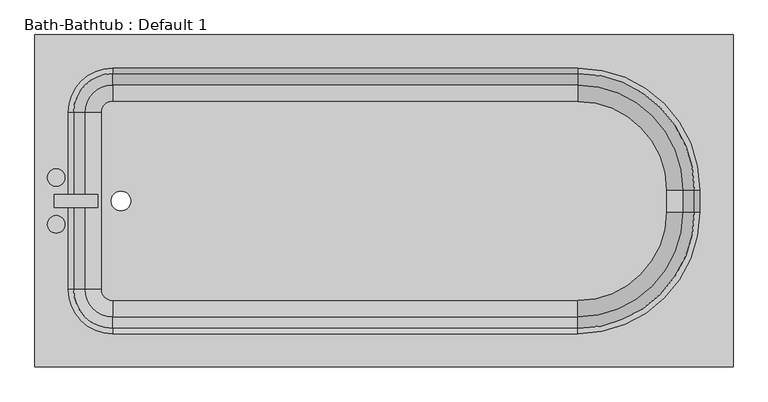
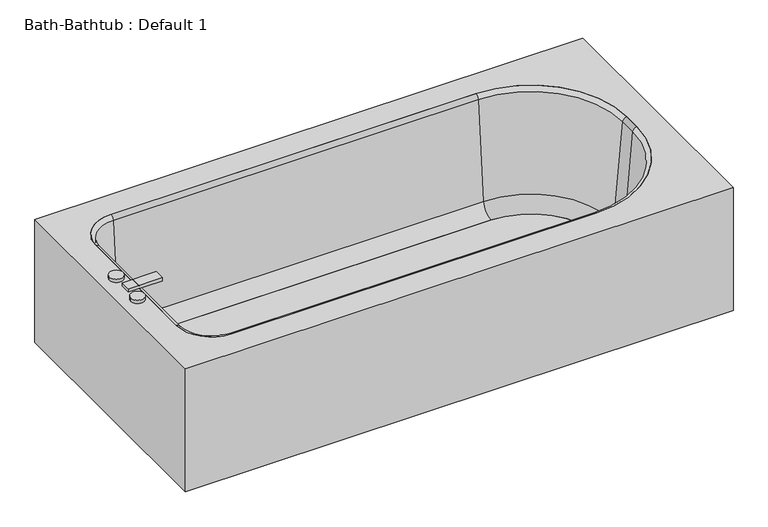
"""IFC4 building model written with IfcOpenShell, lengths in millimetres: flow terminal geometry, Bath-Bathtub : Default 1."""

import ifcopenshell
import ifcopenshell.guid

model = None  # the IFC model being written
_history = None  # IfcOwnerHistory: only IFC2X3 demands one
_inside = {}  # id of a spatial element -> (the spatial element, [elements in it])
_under = {}  # id of a project, library or spatial element -> (it, [spatial elements below it])
_declared = {}  # id of a project -> (the project, [libraries it declares])
_typed = {}  # id of a type object -> (the type object, [elements of that type])
_made_of = {}  # id of a material, layer set ... -> (it, [elements and type objects made of it])


def new_model(schema):
    """Start an empty IFC model of exactly this schema.

    Asked for "IFC4X3", IfcOpenShell would pick the latest addendum, in which some entities
    have other attributes; the version numbers below select the first issue.
    IFC2X3 requires an IfcOwnerHistory on every rooted entity: one is made here for all.
    """
    global model, _history
    if schema == "IFC4X3":
        model = ifcopenshell.file(schema_version=(4, 3, 0, 0))
    else:
        model = ifcopenshell.file(schema=schema)
    _inside.clear()
    _under.clear()
    _declared.clear()
    _typed.clear()
    _made_of.clear()
    _history = None
    if model.schema == "IFC2X3":
        org = make("IfcOrganization", Name="unknown")
        user = make(
            "IfcPersonAndOrganization",
            ThePerson=make("IfcPerson", FamilyName="unknown"),
            TheOrganization=org,
        )
        app = make(
            "IfcApplication",
            ApplicationDeveloper=org,
            Version="unknown",
            ApplicationFullName="unknown",
            ApplicationIdentifier="unknown",
        )
        _history = make(
            "IfcOwnerHistory",
            OwningUser=user,
            OwningApplication=app,
            ChangeAction="ADDED",
            CreationDate=0,
        )
    return model


def make(cls, **values):
    """One entity of the class cls with the attributes given. An attribute that is None is left unset."""
    return model.create_entity(
        cls, **{name: value for name, value in values.items() if value is not None}
    )


def rooted(cls, **values):
    """An entity with a GlobalId (a new one), such as an element, a storey or a relation."""
    return make(cls, GlobalId=ifcopenshell.guid.new(), OwnerHistory=_history, **values)


def si_unit(unit_type, name, prefix=None):
    """IfcSIUnit, for example si_unit("LENGTHUNIT", "METRE", prefix="MILLI")."""
    return make("IfcSIUnit", UnitType=unit_type, Prefix=prefix, Name=name)


def assignment(units):
    """IfcUnitAssignment: the units of a project."""
    return None if units is None else make("IfcUnitAssignment", Units=units)


def point(xyz):
    """IfcCartesianPoint."""
    return None if xyz is None else make("IfcCartesianPoint", Coordinates=xyz)


def direction(xyz):
    """IfcDirection."""
    return None if xyz is None else make("IfcDirection", DirectionRatios=xyz)


def frame(location, z_axis=None, x_axis=None):
    """IfcAxis2Placement3D, a coordinate frame: its origin and axes. An axis left out is left unset."""
    return make(
        "IfcAxis2Placement3D",
        Location=point(location),
        Axis=direction(z_axis),
        RefDirection=direction(x_axis),
    )


def frame_2d(location, x_axis=None):
    """IfcAxis2Placement2D, a coordinate frame in the plane: its origin and x axis."""
    return make(
        "IfcAxis2Placement2D", Location=point(location), RefDirection=direction(x_axis)
    )


def origin():
    """The frame at (0, 0, 0) with its axes left unset."""
    return frame((0.0, 0.0, 0.0))


def place(relative_to, where):
    """IfcLocalPlacement: puts the frame where relative to a parent placement (None: the world)."""
    return make(
        "IfcLocalPlacement", PlacementRelTo=relative_to, RelativePlacement=where
    )


def context(
    kind, dimensions, precision=None, world=None, true_north=None, identifier=None
):
    """IfcGeometricRepresentationContext, for example the 3D "Model" context."""
    return make(
        "IfcGeometricRepresentationContext",
        ContextIdentifier=identifier,
        ContextType=kind,
        CoordinateSpaceDimension=dimensions,
        Precision=precision,
        WorldCoordinateSystem=world,
        TrueNorth=true_north,
    )


def project(units=None, contexts=None):
    """IfcProject with its units and contexts."""
    return rooted(
        "IfcProject",
        Name="project",
        RepresentationContexts=contexts,
        UnitsInContext=assignment(units),
    )


def spatial(cls, under=None, at=None, **own):
    """A site, building, storey or space (cls), placed at a placement, below another one or the project."""
    s = rooted(cls, ObjectPlacement=at, **own)
    if under is not None:
        _under.setdefault(under.id(), (under, []))[1].append(s)
    return s


def polyline(points):
    """IfcPolyline through the points."""
    return make("IfcPolyline", Points=[point(p) for p in points])


def circle_curve(where, radius):
    """IfcCircle in the frame where."""
    return make("IfcCircle", Position=where, Radius=radius)


def ellipse_curve(where, semi_axis1, semi_axis2):
    """IfcEllipse in the frame where."""
    return make(
        "IfcEllipse", Position=where, SemiAxis1=semi_axis1, SemiAxis2=semi_axis2
    )


def trimmed(basis, trim1, trim2, sense, master):
    """IfcTrimmedCurve: the piece of a basis curve between two trims."""
    return make(
        "IfcTrimmedCurve",
        BasisCurve=basis,
        Trim1=trim1,
        Trim2=trim2,
        SenseAgreement=sense,
        MasterRepresentation=master,
    )


def segment(curve, same_sense, transition):
    """IfcCompositeCurveSegment."""
    return make(
        "IfcCompositeCurveSegment",
        Transition=transition,
        SameSense=same_sense,
        ParentCurve=curve,
    )


def composite_curve(segments, self_intersect=None):
    """IfcCompositeCurve: segments joined end to end."""
    return make("IfcCompositeCurve", Segments=segments, SelfIntersect=self_intersect)


def outline(outer, holes=None, kind="AREA"):
    """IfcArbitraryClosedProfileDef: a profile drawn as a closed curve; with holes, ...WithVoids."""
    if holes is None:
        return make("IfcArbitraryClosedProfileDef", ProfileType=kind, OuterCurve=outer)
    return make(
        "IfcArbitraryProfileDefWithVoids",
        ProfileType=kind,
        OuterCurve=outer,
        InnerCurves=holes,
    )


def extrude(swept, where, along, depth):
    """IfcExtrudedAreaSolid: the profile swept, set in the frame where, extruded along a direction by depth."""
    return make(
        "IfcExtrudedAreaSolid",
        SweptArea=swept,
        Position=where,
        ExtrudedDirection=direction(along),
        Depth=depth,
    )


def shape(context_of_items, identifier, shape_type, items):
    """IfcShapeRepresentation: the items that make up one representation, for example the "Body"."""
    return make(
        "IfcShapeRepresentation",
        ContextOfItems=context_of_items,
        RepresentationIdentifier=identifier,
        RepresentationType=shape_type,
        Items=items,
    )


def source(mapping_origin, context_of_items, identifier, shape_type, items):
    """IfcRepresentationMap: a shape defined once, which mapped items show again and again."""
    return make(
        "IfcRepresentationMap",
        MappingOrigin=mapping_origin,
        MappedRepresentation=shape(context_of_items, identifier, shape_type, items),
    )


def transform(
    local_origin,
    x_axis=None,
    y_axis=None,
    z_axis=None,
    scale=None,
    scale2=None,
    scale3=None,
    uniform=True,
):
    """IfcCartesianTransformationOperator3D, or its non-uniform kind. x_axis, y_axis, z_axis: its Axis1, 2, 3."""
    if uniform:
        return make(
            "IfcCartesianTransformationOperator3D",
            Axis1=direction(x_axis),
            Axis2=direction(y_axis),
            LocalOrigin=point(local_origin),
            Scale=scale,
            Axis3=direction(z_axis),
        )
    return make(
        "IfcCartesianTransformationOperator3DnonUniform",
        Axis1=direction(x_axis),
        Axis2=direction(y_axis),
        LocalOrigin=point(local_origin),
        Scale=scale,
        Axis3=direction(z_axis),
        Scale2=scale2,
        Scale3=scale3,
    )


def mapped(mapping_source, mapping_target):
    """IfcMappedItem: shows the shape of a source again, moved by a transform."""
    return make(
        "IfcMappedItem", MappingSource=mapping_source, MappingTarget=mapping_target
    )


def made_of(thing, what):
    """Note that an element or type object is made of a material, layer set ...; save() writes the relation."""
    if what is not None:
        _made_of.setdefault(what.id(), (what, []))[1].append(thing)
    return thing


def element(
    cls,
    number,
    at=None,
    inside=None,
    cuts=None,
    type_object=None,
    material=None,
    context=None,
    identifier="Body",
    shape_type=None,
    held_by="IfcProductDefinitionShape",
    body=None,
    shapes=None,
    **own,
):
    """One element of the class cls, such as IfcWall. Its Tag is "e" and its number.

    at: its placement. inside: the storey or other place that contains it. cuts: it is an
    opening in that element (IfcRelVoidsElement). A single representation is given by context,
    identifier, shape_type and body (its items); several are given by shapes. held_by: the class
    of the entity that holds the representations. save() writes the other relations.
    """
    e = rooted(cls, Tag="e%d" % number, ObjectPlacement=at, **own)
    if body is not None:
        shapes = [shape(context, identifier, shape_type, body)]
    if shapes is not None:
        e.Representation = make(held_by, Representations=shapes)
    if inside is not None:
        _inside.setdefault(inside.id(), (inside, []))[1].append(e)
    if cuts is not None:
        rooted(
            "IfcRelVoidsElement", RelatingBuildingElement=cuts, RelatedOpeningElement=e
        )
    if type_object is not None:
        _typed.setdefault(type_object.id(), (type_object, []))[1].append(e)
    return made_of(e, material)


def aggregate(whole, parts):
    """IfcRelAggregates: a whole, such as a stair, and the parts it consists of."""
    return rooted("IfcRelAggregates", RelatingObject=whole, RelatedObjects=parts)


def save(model, path):
    """Write the relations noted so far, then the file.

    IfcRelAggregates (storeys below a building ...), IfcRelContainedInSpatialStructure (elements
    in a storey), IfcRelDefinesByType, IfcRelAssociatesMaterial and IfcRelDeclares: one each for
    every whole, place, type object, material and project.
    """
    for whole, parts in _under.values():
        aggregate(whole, parts)
    for where, things in _inside.values():
        rooted(
            "IfcRelContainedInSpatialStructure",
            RelatedElements=things,
            RelatingStructure=where,
        )
    for kind, things in _typed.values():
        rooted("IfcRelDefinesByType", RelatedObjects=things, RelatingType=kind)
    for what, things in _made_of.values():
        rooted("IfcRelAssociatesMaterial", RelatedObjects=things, RelatingMaterial=what)
    for by, libraries in _declared.values():
        rooted("IfcRelDeclares", RelatingContext=by, RelatedDefinitions=libraries)
    model.write(path)


def plane_surface(at):
    """IfcPlane: the flat surface through the origin of the frame at, square to its z axis."""
    return make("IfcPlane", Position=at)


def cylinder_surface(at, radius):
    """IfcCylindricalSurface: all points at the distance radius from the z axis of the frame at."""
    return make("IfcCylindricalSurface", Position=at, Radius=radius)


def revolved_surface(curve, axis_point, axis_direction):
    """IfcSurfaceOfRevolution: the curve turned about the line through axis_point along axis_direction."""
    return make(
        "IfcSurfaceOfRevolution",
        SweptCurve=make("IfcArbitraryOpenProfileDef", ProfileType="CURVE", Curve=curve),
        AxisPosition=make("IfcAxis1Placement", Location=point(axis_point), Axis=direction(axis_direction)),
    )


def advanced_brep(points, edges, surfaces, faces):
    """IfcAdvancedBrep: a solid bounded by faces that lie on surfaces and meet in shared edges.

    An edge is (start, end): straight between two places in points (the first is 0);
    or (start, end, curve); or (start, end, curve, False) where it runs against its curve.
    A face is (place in surfaces, loops), or (place, loops, False) where it looks against
    its surface's normal. A loop lists edges by number (the first is 1), with a minus sign
    where the edge is run from its end to its start. The first loop is the outer one.
    """
    corners = [point(p) for p in points]
    vertices = [make("IfcVertexPoint", VertexGeometry=c) for c in corners]
    made = []
    for start, end, *more in edges:
        made.append(
            make(
                "IfcEdgeCurve",
                EdgeStart=vertices[start],
                EdgeEnd=vertices[end],
                EdgeGeometry=more[0] if more else make("IfcPolyline", Points=[corners[start], corners[end]]),
                SameSense=more[1] if len(more) > 1 else True,
            )
        )
    hull = []
    for where, loops, *sense in faces:
        bounds = []
        for j, loop in enumerate(loops):
            ring = [make("IfcOrientedEdge", EdgeElement=made[abs(k) - 1], Orientation=k > 0) for k in loop]
            bounds.append(
                make(
                    "IfcFaceOuterBound" if j == 0 else "IfcFaceBound",
                    Bound=make("IfcEdgeLoop", EdgeList=ring),
                    Orientation=True,
                )
            )
        hull.append(make("IfcAdvancedFace", Bounds=bounds, FaceSurface=surfaces[where], SameSense=sense[0] if sense else True))
    return make("IfcAdvancedBrep", Outer=make("IfcClosedShell", CfsFaces=hull))


def bath_bathtub_default_1_c0510252(model_context):
    return source(origin(), model_context, "Body", "SolidModel", [
        advanced_brep(
        [(489.2832616, -844.55, 380.0), (489.2832616, -82.55, 380.0), (-1110.6029687, -82.55, 380.0), (-1110.6029687, -844.55, 380.0), (-932.8029687, -768.35, 380.0), (-1034.4029687, -666.75, 380.0), (-1034.4029687, -260.35, 380.0), (-932.8029687, -158.75, 380.0), (133.6832616, -158.75, 380.0), (413.0832616, -438.15, 380.0), (413.0832616, -488.95, 380.0), (133.6832616, -768.35, 380.0), (470.2332616, -825.5, 360.95), (-1091.5529687, -825.5, 360.95), (-1091.5529687, -101.6, 360.95), (470.2332616, -101.6, 360.95), (-932.8029687, -768.35, 360.95), (133.6832616, -768.35, 360.95), (413.0832616, -488.95, 360.95), (413.0832616, -438.15, 360.95), (133.6832616, -158.75, 360.95), (-932.8029687, -158.75, 360.95), (-1034.4029687, -260.35, 360.95), (-1034.4029687, -666.75, 360.95), (-1110.6029687, -844.55, 0.0), (489.2832616, -844.55, 0.0), (-1110.6029687, -82.55, 0.0), (489.2832616, -82.55, 0.0), (470.2332616, -825.5, 0.0), (470.2332616, -101.6, 0.0), (-1091.5529687, -101.6, 0.0), (-1091.5529687, -825.5, 0.0)],
        [
            (0, 1),
            (1, 2),
            (2, 3),
            (3, 0),
            (4, 5, circle_curve(frame((-932.8029687, -666.75, 380.0), z_axis=(0.0, 0.0, -1.0), x_axis=(0.0, -1.0, 0.0)), 101.6)),
            (5, 6),
            (6, 7, circle_curve(frame((-932.8029687, -260.35, 380.0), z_axis=(0.0, 0.0, -1.0), x_axis=(0.0, -1.0, 0.0)), 101.6)),
            (7, 8),
            (8, 9, circle_curve(frame((133.6832616, -438.15, 380.0), z_axis=(0.0, 0.0, -1.0), x_axis=(0.0, -1.0, 0.0)), 279.4)),
            (9, 10),
            (10, 11, circle_curve(frame((133.6832616, -488.95, 380.0), z_axis=(0.0, 0.0, -1.0), x_axis=(0.0, -1.0, 0.0)), 279.4)),
            (11, 4),
            (12, 13),
            (13, 14),
            (14, 15),
            (15, 12),
            (16, 17),
            (17, 18, circle_curve(frame((133.6832616, -488.95, 360.95), z_axis=(0.0, 0.0, 1.0), x_axis=(0.0, -1.0, 0.0)), 279.4)),
            (18, 19),
            (19, 20, circle_curve(frame((133.6832616, -438.15, 360.95), z_axis=(0.0, 0.0, 1.0), x_axis=(0.0, -1.0, 0.0)), 279.4)),
            (20, 21),
            (21, 22, circle_curve(frame((-932.8029687, -260.35, 360.95), z_axis=(0.0, 0.0, 1.0), x_axis=(0.0, -1.0, 0.0)), 101.6)),
            (22, 23),
            (23, 16, circle_curve(frame((-932.8029687, -666.75, 360.95), z_axis=(0.0, 0.0, 1.0), x_axis=(0.0, -1.0, 0.0)), 101.6)),
            (3, 24),
            (24, 25),
            (25, 0),
            (2, 26),
            (26, 24),
            (1, 27),
            (27, 26),
            (25, 27),
            (11, 17),
            (16, 4),
            (10, 18),
            (9, 19),
            (8, 20),
            (7, 21),
            (6, 22),
            (5, 23),
            (28, 29),
            (29, 30),
            (30, 31),
            (31, 28),
            (28, 12),
            (15, 29),
            (14, 30),
            (13, 31),
        ],
        [
            plane_surface(frame((-1110.6029687, -844.55, 380.0), z_axis=(0.0, 0.0, 1.0), x_axis=(-1.0, 0.0, 0.0))),
            plane_surface(frame((-1110.6029687, -844.55, 360.95), z_axis=(0.0, 0.0, -1.0), x_axis=(1.0, 0.0, 0.0))),
            plane_surface(frame((489.2832616, -844.55, 380.0), z_axis=(0.0, -1.0, 0.0), x_axis=(0.0, 0.0, -1.0))),
            plane_surface(frame((-1110.6029687, -844.55, 380.0), z_axis=(-1.0, 0.0, 0.0), x_axis=(0.0, 0.0, -1.0))),
            plane_surface(frame((-1110.6029687, -82.55, 380.0), z_axis=(0.0, 1.0, 0.0), x_axis=(0.0, 0.0, -1.0))),
            plane_surface(frame((489.2832616, -82.55, 380.0), z_axis=(1.0, 0.0, 0.0), x_axis=(0.0, 0.0, -1.0))),
            plane_surface(frame((-932.8029687, -768.35, 380.0), z_axis=(0.0, 1.0, 0.0), x_axis=(0.0, 0.0, -1.0))),
            revolved_surface(polyline([(133.6832616, -768.3499999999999, 360.95), (133.6832616, -768.3499999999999, 380.0)]), (133.6832616, -488.95, 380.0), (0.0, 0.0, -1.0)),
            plane_surface(frame((413.0832616, -488.95, 380.0), z_axis=(-1.0, 0.0, 0.0), x_axis=(0.0, 0.0, -1.0))),
            revolved_surface(polyline([(133.6832616, -717.55, 360.95), (133.6832616, -717.55, 380.0)]), (133.6832616, -438.15, 380.0), (0.0, 0.0, -1.0)),
            plane_surface(frame((133.6832616, -158.75, 380.0), z_axis=(0.0, -1.0, 0.0), x_axis=(0.0, 0.0, -1.0))),
            revolved_surface(polyline([(-932.8029687, -361.95000000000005, 360.95), (-932.8029687, -361.95000000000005, 380.0)]), (-932.8029687, -260.35, 380.0), (0.0, 0.0, -1.0)),
            plane_surface(frame((-1034.4029687, -260.35, 380.0), z_axis=(1.0, 0.0, 0.0), x_axis=(0.0, 0.0, -1.0))),
            revolved_surface(polyline([(-932.8029687, -768.35, 360.95), (-932.8029687, -768.35, 380.0)]), (-932.8029687, -666.75, 380.0), (0.0, 0.0, -1.0)),
            plane_surface(frame((-1110.6029687, -844.55, 0.0), z_axis=(0.0, 0.0, -1.0), x_axis=(1.0, 0.0, 0.0))),
            plane_surface(frame((470.2332616, -825.5, 360.95), z_axis=(-1.0, 0.0, 0.0), x_axis=(0.0, 0.0, -1.0))),
            plane_surface(frame((470.2332616, -101.6, 360.95), z_axis=(0.0, -1.0, 0.0), x_axis=(0.0, 0.0, -1.0))),
            plane_surface(frame((-1091.5529687, -101.6, 360.95), z_axis=(1.0, 0.0, 0.0), x_axis=(0.0, 0.0, -1.0))),
            plane_surface(frame((-1091.5529687, -825.5, 360.95), z_axis=(0.0, 1.0, 0.0), x_axis=(0.0, 0.0, -1.0))),
        ],
        [
            (0, [[1, 2, 3, 4], [5, 6, 7, 8, 9, 10, 11, 12]]),
            (1, [[13, 14, 15, 16], [17, 18, 19, 20, 21, 22, 23, 24]]),
            (2, [[25, 26, 27, -4]]),
            (3, [[28, 29, -25, -3]]),
            (4, [[30, 31, -28, -2]]),
            (5, [[32, -30, -1, -27]]),
            (6, [[33, -17, 34, -12]]),
            (7, [[35, -18, -33, -11]]),
            (8, [[36, -19, -35, -10]]),
            (9, [[37, -20, -36, -9]]),
            (10, [[38, -21, -37, -8]]),
            (11, [[39, -22, -38, -7]]),
            (12, [[40, -23, -39, -6]]),
            (13, [[-34, -24, -40, -5]]),
            (14, [[-26, -29, -31, -32], [41, 42, 43, 44]]),
            (15, [[45, -16, 46, -41]]),
            (16, [[-46, -15, 47, -42]]),
            (17, [[-47, -14, 48, -43]]),
            (18, [[-48, -13, -45, -44]]),
        ],
    ),
        extrude(outline(composite_curve([segment(polyline([(133.6832616, -691.7464741), (-932.8029687, -691.7464741)]), True, "CONTINUOUS"), segment(trimmed(circle_curve(frame_2d((-932.8029687, -666.75)), 24.9964741), [point((-932.8029687, -691.7464741))], [point((-957.7994428, -666.75))], False, "CARTESIAN"), True, "CONTINUOUS"), segment(polyline([(-957.7994428, -666.75), (-957.7994428, -260.35)]), True, "CONTINUOUS"), segment(trimmed(circle_curve(frame_2d((-932.8029687, -260.35)), 24.9964741), [point((-957.7994428, -260.35))], [point((-932.8029687, -235.3535259))], False, "CARTESIAN"), True, "CONTINUOUS"), segment(polyline([(-932.8029687, -235.3535259), (133.6832616, -235.3535259)]), True, "CONTINUOUS"), segment(trimmed(circle_curve(frame_2d((133.6832616, -438.15)), 202.7964741), [point((133.6832616, -235.3535259))], [point((336.4797357, -438.15))], False, "CARTESIAN"), True, "CONTINUOUS"), segment(polyline([(336.4797357, -438.15), (336.4797357, -488.95)]), True, "CONTINUOUS"), segment(trimmed(circle_curve(frame_2d((133.6832616, -488.95)), 202.7964741), [point((336.4797357, -488.95))], [point((133.6832616, -691.7464741))], False, "CARTESIAN"), True, "CONTINUOUS")], self_intersect=False), holes=[composite_curve([segment(trimmed(circle_curve(frame_2d((-913.5971625, -463.55)), 22.225), [point((-913.5971625, -485.775))], [point((-913.5971625, -441.325))], True, "CARTESIAN"), True, "CONTINUOUS"), segment(trimmed(circle_curve(frame_2d((-913.5971625, -463.55)), 22.225), [point((-913.5971625, -441.325))], [point((-913.5971625, -485.775))], True, "CARTESIAN"), True, "CONTINUOUS")], self_intersect=False)]), frame((0.0, 0.0, 15.863573), z_axis=(0.0, 0.0, 1.0), x_axis=(1.0, 0.0, 0.0)), (0.0, 0.0, 1.0), 19.05),
        advanced_brep(
        [(-995.7544608, -666.75, 69.6929392), (-1021.9249722, -666.75, 368.8232535), (-932.8029687, -755.8720035, 368.8232535), (-932.8029687, -729.7014921, 69.6929392), (-957.7994428, -666.75, 34.913573), (-932.8029687, -691.7464741, 34.913573), (-957.7994428, -666.75, 15.863573), (-932.8029687, -691.7464741, 15.863573), (-1034.4029687, -666.75, 15.863573), (-932.8029687, -768.35, 15.863573), (-1034.4029687, -666.75, 380.0), (-932.8029687, -768.35, 380.0), (-995.7544608, -260.35, 69.6929392), (-1021.9249722, -260.35, 368.8232535), (-957.7994428, -260.35, 34.913573), (-957.7994428, -260.35, 15.863573), (-1034.4029687, -260.35, 15.863573), (-1034.4029687, -260.35, 380.0), (-932.8029687, -197.3985079, 69.6929392), (-932.8029687, -171.2279965, 368.8232535), (-932.8029687, -235.3535259, 34.913573), (-932.8029687, -235.3535259, 15.863573), (-932.8029687, -158.75, 15.863573), (-932.8029687, -158.75, 380.0), (133.6832616, -197.3985079, 69.6929392), (133.6832616, -171.2279965, 368.8232535), (133.6832616, -235.3535259, 34.913573), (133.6832616, -235.3535259, 15.863573), (133.6832616, -158.75, 15.863573), (133.6832616, -158.75, 380.0), (374.4347537, -438.15, 69.6929392), (400.6052651, -438.15, 368.8232535), (336.4797357, -438.15, 34.913573), (336.4797357, -438.15, 15.863573), (413.0832616, -438.15, 15.863573), (413.0832616, -438.15, 380.0), (374.4347537, -488.95, 69.6929392), (400.6052651, -488.95, 368.8232535), (336.4797357, -488.95, 34.913573), (336.4797357, -488.95, 15.863573), (413.0832616, -488.95, 15.863573), (413.0832616, -488.95, 380.0), (133.6832616, -729.7014921, 69.6929392), (133.6832616, -755.8720035, 368.8232535), (133.6832616, -691.7464741, 34.913573), (133.6832616, -691.7464741, 15.863573), (133.6832616, -768.35, 15.863573), (133.6832616, -768.35, 380.0)],
        [
            (0, 1),
            (1, 2, circle_curve(frame((-932.8029687, -666.75, 368.8232535), z_axis=(0.0, 0.0, 1.0), x_axis=(0.0, -1.0, 0.0)), 89.1220035)),
            (2, 3),
            (3, 0, circle_curve(frame((-932.8029687, -666.75, 69.6929392), z_axis=(0.0, 0.0, -1.0), x_axis=(0.0, -1.0, 0.0)), 62.9514921)),
            (4, 0, circle_curve(frame((-957.7994428, -666.75, 73.013573), z_axis=(0.0, 1.0, 0.0), x_axis=(1.0, 0.0, 0.0)), 38.1)),
            (3, 5, circle_curve(frame((-932.8029687, -691.7464741, 73.013573), z_axis=(1.0, 0.0, 0.0), x_axis=(0.0, 1.0, 0.0)), 38.1)),
            (5, 4, circle_curve(frame((-932.8029687, -666.75, 34.913573), z_axis=(0.0, 0.0, -1.0), x_axis=(0.0, -1.0, 0.0)), 24.9964741)),
            (6, 4),
            (5, 7),
            (7, 6, circle_curve(frame((-932.8029687, -666.75, 15.863573), z_axis=(0.0, 0.0, -1.0), x_axis=(0.0, -1.0, 0.0)), 24.9964741)),
            (8, 6),
            (7, 9),
            (9, 8, circle_curve(frame((-932.8029687, -666.75, 15.863573), z_axis=(0.0, 0.0, -1.0), x_axis=(0.0, -1.0, 0.0)), 101.6)),
            (10, 8),
            (9, 11),
            (11, 10, circle_curve(frame((-932.8029687, -666.75, 380.0), z_axis=(0.0, 0.0, -1.0), x_axis=(0.0, -1.0, 0.0)), 101.6)),
            (1, 10, circle_curve(frame((-1034.4029687, -666.75, 367.4462547), z_axis=(0.0, -1.0, 0.0), x_axis=(1.0, 0.0, 0.0)), 12.5537453)),
            (11, 2, circle_curve(frame((-932.8029687, -768.35, 367.4462547), z_axis=(-1.0, 0.0, 0.0), x_axis=(0.0, 1.0, 0.0)), 12.5537453)),
            (0, 12),
            (12, 13),
            (13, 1),
            (4, 14),
            (14, 12, circle_curve(frame((-957.7994428, -260.35, 73.013573), z_axis=(0.0, 1.0, 0.0), x_axis=(1.0, 0.0, 0.0)), 38.1)),
            (6, 15),
            (15, 14),
            (8, 16),
            (16, 15),
            (10, 17),
            (17, 16),
            (13, 17, circle_curve(frame((-1034.4029687, -260.35, 367.4462547), z_axis=(0.0, -1.0, 0.0), x_axis=(1.0, 0.0, 0.0)), 12.5537453)),
            (18, 19),
            (19, 13, circle_curve(frame((-932.8029687, -260.35, 368.8232535), z_axis=(0.0, 0.0, 1.0), x_axis=(-1.0, 0.0, 0.0)), 89.1220035)),
            (12, 18, circle_curve(frame((-932.8029687, -260.35, 69.6929392), z_axis=(0.0, 0.0, -1.0), x_axis=(-1.0, 0.0, 0.0)), 62.9514921)),
            (20, 18, circle_curve(frame((-932.8029687, -235.3535259, 73.013573), z_axis=(1.0, 0.0, 0.0), x_axis=(0.0, -1.0, 0.0)), 38.1)),
            (14, 20, circle_curve(frame((-932.8029687, -260.35, 34.913573), z_axis=(0.0, 0.0, -1.0), x_axis=(-1.0, 0.0, 0.0)), 24.9964741)),
            (21, 20),
            (15, 21, circle_curve(frame((-932.8029687, -260.35, 15.863573), z_axis=(0.0, 0.0, -1.0), x_axis=(-1.0, 0.0, 0.0)), 24.9964741)),
            (22, 21),
            (16, 22, circle_curve(frame((-932.8029687, -260.35, 15.863573), z_axis=(0.0, 0.0, -1.0), x_axis=(-1.0, 0.0, 0.0)), 101.6)),
            (23, 22),
            (17, 23, circle_curve(frame((-932.8029687, -260.35, 380.0), z_axis=(0.0, 0.0, -1.0), x_axis=(-1.0, 0.0, 0.0)), 101.6)),
            (19, 23, circle_curve(frame((-932.8029687, -158.75, 367.4462547), z_axis=(-1.0, 0.0, 0.0), x_axis=(0.0, -1.0, 0.0)), 12.5537453)),
            (18, 24),
            (24, 25),
            (25, 19),
            (20, 26),
            (26, 24, circle_curve(frame((133.6832616, -235.3535259, 73.013573), z_axis=(1.0, 0.0, 0.0), x_axis=(0.0, -1.0, 0.0)), 38.1)),
            (21, 27),
            (27, 26),
            (22, 28),
            (28, 27),
            (23, 29),
            (29, 28),
            (25, 29, circle_curve(frame((133.6832616, -158.75, 367.4462547), z_axis=(-1.0, 0.0, 0.0), x_axis=(0.0, -1.0, 0.0)), 12.5537453)),
            (30, 31),
            (31, 25, circle_curve(frame((133.6832616, -438.15, 368.8232535), z_axis=(0.0, 0.0, 1.0), x_axis=(0.0, 1.0, 0.0)), 266.9220035)),
            (24, 30, circle_curve(frame((133.6832616, -438.15, 69.6929392), z_axis=(0.0, 0.0, -1.0), x_axis=(0.0, 1.0, 0.0)), 240.7514921)),
            (32, 30, circle_curve(frame((336.4797357, -438.15, 73.013573), z_axis=(0.0, -1.0, 0.0), x_axis=(-1.0, 0.0, 0.0)), 38.1)),
            (26, 32, circle_curve(frame((133.6832616, -438.15, 34.913573), z_axis=(0.0, 0.0, -1.0), x_axis=(0.0, 1.0, 0.0)), 202.7964741)),
            (33, 32),
            (27, 33, circle_curve(frame((133.6832616, -438.15, 15.863573), z_axis=(0.0, 0.0, -1.0), x_axis=(0.0, 1.0, 0.0)), 202.7964741)),
            (34, 33),
            (28, 34, circle_curve(frame((133.6832616, -438.15, 15.863573), z_axis=(0.0, 0.0, -1.0), x_axis=(0.0, 1.0, 0.0)), 279.4)),
            (35, 34),
            (29, 35, circle_curve(frame((133.6832616, -438.15, 380.0), z_axis=(0.0, 0.0, -1.0), x_axis=(0.0, 1.0, 0.0)), 279.4)),
            (31, 35, circle_curve(frame((413.0832616, -438.15, 367.4462547), z_axis=(0.0, 1.0, 0.0), x_axis=(-1.0, 0.0, 0.0)), 12.5537453)),
            (30, 36),
            (36, 37),
            (37, 31),
            (32, 38),
            (38, 36, circle_curve(frame((336.4797357, -488.95, 73.013573), z_axis=(0.0, -1.0, 0.0), x_axis=(-1.0, 0.0, 0.0)), 38.1)),
            (33, 39),
            (39, 38),
            (34, 40),
            (40, 39),
            (35, 41),
            (41, 40),
            (37, 41, circle_curve(frame((413.0832616, -488.95, 367.4462547), z_axis=(0.0, 1.0, 0.0), x_axis=(-1.0, 0.0, 0.0)), 12.5537453)),
            (42, 43),
            (43, 37, circle_curve(frame((133.6832616, -488.95, 368.8232535), z_axis=(0.0, 0.0, 1.0), x_axis=(1.0, 0.0, 0.0)), 266.9220035)),
            (36, 42, circle_curve(frame((133.6832616, -488.95, 69.6929392), z_axis=(0.0, 0.0, -1.0), x_axis=(1.0, 0.0, 0.0)), 240.7514921)),
            (44, 42, circle_curve(frame((133.6832616, -691.7464741, 73.013573), z_axis=(-1.0, 0.0, 0.0), x_axis=(0.0, 1.0, 0.0)), 38.1)),
            (38, 44, circle_curve(frame((133.6832616, -488.95, 34.913573), z_axis=(0.0, 0.0, -1.0), x_axis=(1.0, 0.0, 0.0)), 202.7964741)),
            (45, 44),
            (39, 45, circle_curve(frame((133.6832616, -488.95, 15.863573), z_axis=(0.0, 0.0, -1.0), x_axis=(1.0, 0.0, 0.0)), 202.7964741)),
            (46, 45),
            (40, 46, circle_curve(frame((133.6832616, -488.95, 15.863573), z_axis=(0.0, 0.0, -1.0), x_axis=(1.0, 0.0, 0.0)), 279.4)),
            (47, 46),
            (41, 47, circle_curve(frame((133.6832616, -488.95, 380.0), z_axis=(0.0, 0.0, -1.0), x_axis=(1.0, 0.0, 0.0)), 279.4)),
            (43, 47, circle_curve(frame((133.6832616, -768.35, 367.4462547), z_axis=(1.0, 0.0, 0.0), x_axis=(0.0, 1.0, 0.0)), 12.5537453)),
            (42, 3),
            (2, 43),
            (44, 5),
            (45, 7),
            (46, 9),
            (47, 11),
        ],
        [
            revolved_surface(polyline([(-932.8029687, -755.8720035, 368.8232535), (-932.8029687, -729.7014921, 69.6929392)]), (-932.8029687, -666.75, 380.0), (0.0, 0.0, 1.0)),
            revolved_surface(trimmed(ellipse_curve(frame((-932.8029687, -691.7464741, 73.013573), z_axis=(1.0, 0.0, 0.0), x_axis=(0.0, 1.0, 0.0)), 38.1, 38.1), [point((-932.8029687, -729.7014921, 69.6929392))], [point((-932.8029687, -691.7464741, 34.913573))], True, "CARTESIAN"), (-932.8029687, -666.75, 380.0), (0.0, 0.0, 1.0)),
            revolved_surface(polyline([(-932.8029687, -691.7464741, 34.913572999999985), (-932.8029687, -691.7464741, 15.863572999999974)]), (-932.8029687, -666.75, 380.0), (0.0, 0.0, 1.0)),
            plane_surface(frame((-932.8029687, -666.75, 15.863573), z_axis=(0.0, 0.0, -1.0), x_axis=(0.0, -1.0, 0.0))),
            cylinder_surface(frame((-932.8029687, -666.75, 380.0), z_axis=(0.0, 0.0, 1.0), x_axis=(0.0, -1.0, 0.0)), 101.6),
            revolved_surface(trimmed(ellipse_curve(frame((-932.8029687, -768.35, 367.4462547), z_axis=(-1.0, 0.0, 0.0), x_axis=(0.0, 1.0, 0.0)), 12.5537453, 12.5537453), [point((-932.8029687, -768.35, 380.0))], [point((-932.8029687, -755.8720035, 368.8232535))], True, "CARTESIAN"), (-932.8029687, -666.75, 380.0), (0.0, 0.0, 1.0)),
            plane_surface(frame((-1021.9249722, -666.75, 368.8232535), z_axis=(0.9961946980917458, 0.0, 0.08715574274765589), x_axis=(0.0, 1.0, 0.0))),
            revolved_surface(polyline([(-919.6994427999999, -260.35, 73.013573), (-919.6994427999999, -666.75, 73.013573)]), (-957.7994428, -666.75, 73.013573), (0.0, 1.0, 0.0)),
            plane_surface(frame((-957.7994428, -666.75, 34.913573), z_axis=(1.0, 0.0, 0.0), x_axis=(0.0, 1.0, 0.0))),
            plane_surface(frame((-957.7994428, -666.75, 15.863573), z_axis=(0.0, 0.0, -1.0), x_axis=(0.0, 1.0, 0.0))),
            plane_surface(frame((-1034.4029687, -666.75, 15.863573), z_axis=(-1.0, 0.0, 0.0), x_axis=(0.0, 1.0, 0.0))),
            cylinder_surface(frame((-1034.4029687, -666.75, 367.4462547), z_axis=(0.0, -1.0, 0.0), x_axis=(1.0, 0.0, 0.0)), 12.5537453),
            revolved_surface(polyline([(-1021.9249722, -260.35, 368.8232535), (-995.7544608, -260.35, 69.6929392)]), (-932.8029687, -260.35, 380.0), (0.0, 0.0, 1.0)),
            revolved_surface(trimmed(ellipse_curve(frame((-957.7994428, -260.35, 73.013573), z_axis=(0.0, -1.0, 0.0), x_axis=(1.0, 0.0, 0.0)), 38.1, 38.1), [point((-995.7544608, -260.35, 69.6929392))], [point((-957.7994428, -260.35, 34.913573))], True, "CARTESIAN"), (-932.8029687, -260.35, 380.0), (0.0, 0.0, 1.0)),
            revolved_surface(polyline([(-957.7994428, -260.35, 34.913572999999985), (-957.7994428, -260.35, 15.863572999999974)]), (-932.8029687, -260.35, 380.0), (0.0, 0.0, 1.0)),
            plane_surface(frame((-932.8029687, -260.35, 15.863573), z_axis=(0.0, 0.0, -1.0), x_axis=(-1.0, 0.0, 0.0))),
            cylinder_surface(frame((-932.8029687, -260.35, 380.0), z_axis=(0.0, 0.0, 1.0), x_axis=(-1.0, 0.0, 0.0)), 101.6),
            revolved_surface(trimmed(ellipse_curve(frame((-1034.4029687, -260.35, 367.4462547), z_axis=(0.0, 1.0, 0.0), x_axis=(1.0, 0.0, 0.0)), 12.5537453, 12.5537453), [point((-1034.4029687, -260.35, 380.0))], [point((-1021.9249722, -260.35, 368.8232535))], True, "CARTESIAN"), (-932.8029687, -260.35, 380.0), (0.0, 0.0, 1.0)),
            plane_surface(frame((-932.8029687, -171.2279965, 368.8232535), z_axis=(0.0, -0.9961946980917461, 0.08715574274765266), x_axis=(1.0, 0.0, 0.0))),
            revolved_surface(polyline([(133.68326160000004, -273.4535259, 73.013573), (-932.8029687, -273.4535259, 73.013573)]), (-932.8029687, -235.3535259, 73.013573), (1.0, 0.0, 0.0)),
            plane_surface(frame((-932.8029687, -235.3535259, 34.913573), z_axis=(0.0, -1.0, 0.0), x_axis=(1.0, 0.0, 0.0))),
            plane_surface(frame((-932.8029687, -235.3535259, 15.863573), z_axis=(0.0, 0.0, -1.0), x_axis=(1.0, 0.0, 0.0))),
            plane_surface(frame((-932.8029687, -158.75, 15.863573), z_axis=(0.0, 1.0, 0.0), x_axis=(1.0, 0.0, 0.0))),
            cylinder_surface(frame((-932.8029687, -158.75, 367.4462547), z_axis=(-1.0, 0.0, 0.0), x_axis=(0.0, -1.0, 0.0)), 12.5537453),
            revolved_surface(polyline([(133.6832616, -171.2279965, 368.8232535), (133.6832616, -197.3985079, 69.6929392)]), (133.6832616, -438.15, 380.0), (0.0, 0.0, 1.0)),
            revolved_surface(trimmed(ellipse_curve(frame((133.6832616, -235.3535259, 73.013573), z_axis=(-1.0, 0.0, 0.0), x_axis=(0.0, -1.0, 0.0)), 38.1, 38.1), [point((133.6832616, -197.3985079, 69.6929392))], [point((133.6832616, -235.3535259, 34.913573))], True, "CARTESIAN"), (133.6832616, -438.15, 380.0), (0.0, 0.0, 1.0)),
            revolved_surface(polyline([(133.6832616, -235.35352589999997, 34.913572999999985), (133.6832616, -235.35352589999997, 15.863572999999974)]), (133.6832616, -438.15, 380.0), (0.0, 0.0, 1.0)),
            plane_surface(frame((133.6832616, -438.15, 15.863573), z_axis=(0.0, 0.0, -1.0), x_axis=(0.0, 1.0, 0.0))),
            cylinder_surface(frame((133.6832616, -438.15, 380.0), z_axis=(0.0, 0.0, 1.0), x_axis=(0.0, 1.0, 0.0)), 279.4),
            revolved_surface(trimmed(ellipse_curve(frame((133.6832616, -158.75, 367.4462547), z_axis=(1.0, 0.0, 0.0), x_axis=(0.0, -1.0, 0.0)), 12.5537453, 12.5537453), [point((133.6832616, -158.75, 380.0))], [point((133.6832616, -171.2279965, 368.8232535))], True, "CARTESIAN"), (133.6832616, -438.15, 380.0), (0.0, 0.0, 1.0)),
            plane_surface(frame((400.6052651, -438.15, 368.8232535), z_axis=(-0.9961946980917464, 0.0, 0.08715574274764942), x_axis=(0.0, -1.0, 0.0))),
            revolved_surface(polyline([(298.37973569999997, -488.95, 73.013573), (298.37973569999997, -438.15, 73.013573)]), (336.4797357, -438.15, 73.013573), (0.0, -1.0, 0.0)),
            plane_surface(frame((336.4797357, -438.15, 34.913573), z_axis=(-1.0, 0.0, 0.0), x_axis=(0.0, -1.0, 0.0))),
            plane_surface(frame((336.4797357, -438.15, 15.863573), z_axis=(0.0, 0.0, -1.0), x_axis=(0.0, -1.0, 0.0))),
            plane_surface(frame((413.0832616, -438.15, 15.863573), z_axis=(1.0, 0.0, 0.0), x_axis=(0.0, -1.0, 0.0))),
            cylinder_surface(frame((413.0832616, -438.15, 367.4462547), z_axis=(0.0, 1.0, 0.0), x_axis=(-1.0, 0.0, 0.0)), 12.5537453),
            revolved_surface(polyline([(400.6052651, -488.95, 368.8232535), (374.4347537, -488.95, 69.6929392)]), (133.6832616, -488.95, 380.0), (0.0, 0.0, 1.0)),
            revolved_surface(trimmed(ellipse_curve(frame((336.4797357, -488.95, 73.013573), z_axis=(0.0, 1.0, 0.0), x_axis=(-1.0, 0.0, 0.0)), 38.1, 38.1), [point((374.4347537, -488.95, 69.6929392))], [point((336.4797357, -488.95, 34.913573))], True, "CARTESIAN"), (133.6832616, -488.95, 380.0), (0.0, 0.0, 1.0)),
            revolved_surface(polyline([(336.4797357, -488.95, 34.913572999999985), (336.4797357, -488.95, 15.863572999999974)]), (133.6832616, -488.95, 380.0), (0.0, 0.0, 1.0)),
            plane_surface(frame((133.6832616, -488.95, 15.863573), z_axis=(0.0, 0.0, -1.0), x_axis=(1.0, 0.0, 0.0))),
            cylinder_surface(frame((133.6832616, -488.95, 380.0), z_axis=(0.0, 0.0, 1.0), x_axis=(1.0, 0.0, 0.0)), 279.4),
            revolved_surface(trimmed(ellipse_curve(frame((413.0832616, -488.95, 367.4462547), z_axis=(0.0, -1.0, 0.0), x_axis=(-1.0, 0.0, 0.0)), 12.5537453, 12.5537453), [point((413.0832616, -488.95, 380.0))], [point((400.6052651, -488.95, 368.8232535))], True, "CARTESIAN"), (133.6832616, -488.95, 380.0), (0.0, 0.0, 1.0)),
            plane_surface(frame((133.6832616, -755.8720035, 368.8232535), z_axis=(0.0, 0.9961946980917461, 0.08715574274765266), x_axis=(-1.0, 0.0, 0.0))),
            revolved_surface(polyline([(-932.8029687, -653.6464741, 73.013573), (133.6832616, -653.6464741, 73.013573)]), (133.6832616, -691.7464741, 73.013573), (-1.0, 0.0, 0.0)),
            plane_surface(frame((133.6832616, -691.7464741, 34.913573), z_axis=(0.0, 1.0, 0.0), x_axis=(-1.0, 0.0, 0.0))),
            plane_surface(frame((133.6832616, -691.7464741, 15.863573), z_axis=(0.0, 0.0, -1.0), x_axis=(-1.0, 0.0, 0.0))),
            plane_surface(frame((133.6832616, -768.35, 15.863573), z_axis=(0.0, -1.0, 0.0), x_axis=(-1.0, 0.0, 0.0))),
            cylinder_surface(frame((133.6832616, -768.35, 367.4462547), z_axis=(1.0, 0.0, 0.0), x_axis=(0.0, 1.0, 0.0)), 12.5537453),
        ],
        [
            (0, [[1, 2, 3, 4]]),
            (1, [[5, -4, 6, 7]]),
            (2, [[8, -7, 9, 10]]),
            (3, [[11, -10, 12, 13]]),
            (4, [[14, -13, 15, 16]]),
            (5, [[17, -16, 18, -2]]),
            (6, [[19, 20, 21, -1]]),
            (7, [[22, 23, -19, -5]]),
            (8, [[24, 25, -22, -8]]),
            (9, [[26, 27, -24, -11]]),
            (10, [[28, 29, -26, -14]]),
            (11, [[-21, 30, -28, -17]]),
            (12, [[31, 32, -20, 33]]),
            (13, [[34, -33, -23, 35]]),
            (14, [[36, -35, -25, 37]]),
            (15, [[38, -37, -27, 39]]),
            (16, [[40, -39, -29, 41]]),
            (17, [[42, -41, -30, -32]]),
            (18, [[43, 44, 45, -31]]),
            (19, [[46, 47, -43, -34]]),
            (20, [[48, 49, -46, -36]]),
            (21, [[50, 51, -48, -38]]),
            (22, [[52, 53, -50, -40]]),
            (23, [[-45, 54, -52, -42]]),
            (24, [[55, 56, -44, 57]]),
            (25, [[58, -57, -47, 59]]),
            (26, [[60, -59, -49, 61]]),
            (27, [[62, -61, -51, 63]]),
            (28, [[64, -63, -53, 65]]),
            (29, [[66, -65, -54, -56]]),
            (30, [[67, 68, 69, -55]]),
            (31, [[70, 71, -67, -58]]),
            (32, [[72, 73, -70, -60]]),
            (33, [[74, 75, -72, -62]]),
            (34, [[76, 77, -74, -64]]),
            (35, [[-69, 78, -76, -66]]),
            (36, [[79, 80, -68, 81]]),
            (37, [[82, -81, -71, 83]]),
            (38, [[84, -83, -73, 85]]),
            (39, [[86, -85, -75, 87]]),
            (40, [[88, -87, -77, 89]]),
            (41, [[90, -89, -78, -80]]),
            (42, [[91, -3, 92, -79]]),
            (43, [[93, -6, -91, -82]]),
            (44, [[94, -9, -93, -84]]),
            (45, [[95, -12, -94, -86]]),
            (46, [[96, -15, -95, -88]]),
            (47, [[-92, -18, -96, -90]]),
        ],
    ),
        extrude(outline(polyline([(-1066.8328759, -478.55), (-1066.8328759, -448.55), (-966.8328759, -448.55), (-966.8328759, -478.55), (-1066.8328759, -478.55)])), frame((0.0, 0.0, 380.0), z_axis=(0.0, 0.0, 1.0), x_axis=(1.0, 0.0, 0.0)), (0.0, 0.0, 1.0), 10.6738596),
        extrude(outline(composite_curve([segment(trimmed(circle_curve(frame_2d((-1061.8660369, -517.2447376)), 20.0), [point((-1041.8660369, -517.2447376))], [point((-1081.8660369, -517.2447376))], False, "CARTESIAN"), True, "CONTINUOUS"), segment(trimmed(circle_curve(frame_2d((-1061.8660369, -517.2447376)), 20.0), [point((-1081.8660369, -517.2447376))], [point((-1041.8660369, -517.2447376))], False, "CARTESIAN"), True, "CONTINUOUS")], self_intersect=False)), frame((0.0, 0.0, 380.0), z_axis=(0.0, 0.0, 1.0), x_axis=(1.0, 0.0, 0.0)), (0.0, 0.0, 1.0), 10.6738596),
        extrude(outline(composite_curve([segment(trimmed(circle_curve(frame_2d((-1061.8660369, -409.8552624)), 20.0), [point((-1041.8660369, -409.8552624))], [point((-1081.8660369, -409.8552624))], False, "CARTESIAN"), True, "CONTINUOUS"), segment(trimmed(circle_curve(frame_2d((-1061.8660369, -409.8552624)), 20.0), [point((-1081.8660369, -409.8552624))], [point((-1041.8660369, -409.8552624))], False, "CARTESIAN"), True, "CONTINUOUS")], self_intersect=False)), frame((0.0, 0.0, 380.0), z_axis=(0.0, 0.0, 1.0), x_axis=(1.0, 0.0, 0.0)), (0.0, 0.0, 1.0), 10.6738596),
    ])


if __name__ == "__main__":
    model = new_model("IFC4")
    model_context = context("Model", 3, world=origin())
    ifc_project = project(units=[si_unit("LENGTHUNIT", "METRE", prefix="MILLI")], contexts=[model_context])
    site = spatial("IfcSite", under=ifc_project)
    building = spatial("IfcBuilding", under=site)
    placement = place(None, origin())
    bath_bathtub_default_1_shape = bath_bathtub_default_1_c0510252(model_context)
    element("IfcFlowTerminal", 1, ObjectType="Bath-Bathtub : Default 1", at=placement, inside=building, context=model_context, shape_type="MappedRepresentation", body=[
        mapped(bath_bathtub_default_1_shape, transform((0.0, 0.0, 0.0), x_axis=(1.0, 0.0, 0.0), y_axis=(0.0, 1.0, 0.0), z_axis=(0.0, 0.0, 1.0))),
    ])
    save(model, "model.ifc")
